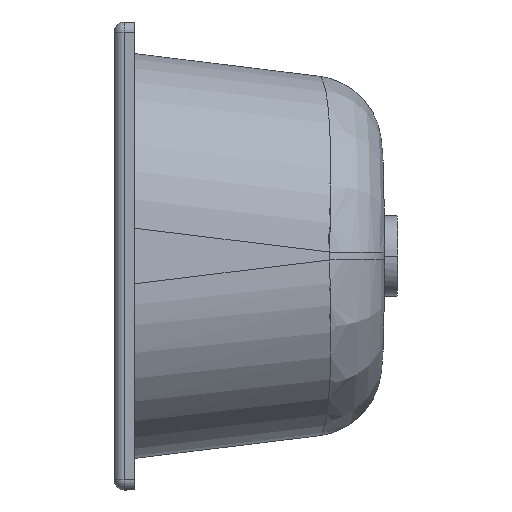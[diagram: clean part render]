
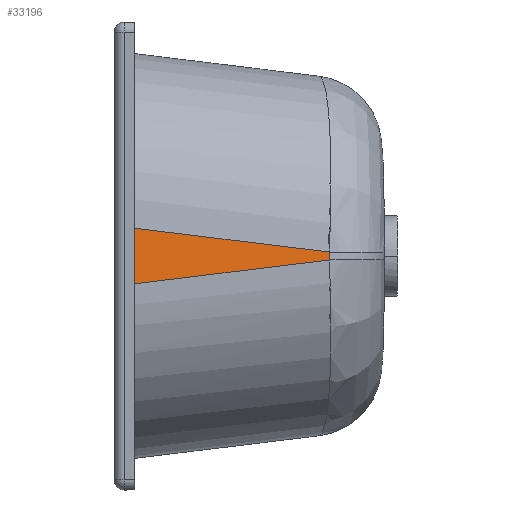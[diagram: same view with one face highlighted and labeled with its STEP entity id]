
A CAD part, left-side view. The second image highlights one B-rep face of the part: STEP entity #33196.
In plain terms, the highlighted planar face has unit normal (-0.974, -0.225, 0).
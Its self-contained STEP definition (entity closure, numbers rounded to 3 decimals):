
#5924 = LINE ( 'NONE', #5974, #30289 ) ;
#5974 = CARTESIAN_POINT ( 'NONE',  ( -667.342, 280.092, -24.544 ) ) ;
#6053 = DIRECTION ( 'NONE',  ( -0.223, 0.967, -0.119 ) ) ;
#7036 = CARTESIAN_POINT ( 'NONE',  ( -632.245, 128.07, 5.878 ) ) ;
#7101 = CARTESIAN_POINT ( 'NONE',  ( -632.245, 128.07, -5.878 ) ) ;
#7181 = CARTESIAN_POINT ( 'NONE',  ( -703.552, 436.935, -43.801 ) ) ;
#7294 = CARTESIAN_POINT ( 'NONE',  ( -703.552, 436.935, 43.801 ) ) ;
#19611 = FACE_OUTER_BOUND ( 'NONE', #32397, .T. ) ;
#20503 = DIRECTION ( 'NONE',  ( -0.974, -0.225, 0. ) ) ;
#20514 = CARTESIAN_POINT ( 'NONE',  ( -703.552, 436.935, -44.327 ) ) ;
#20517 = PLANE ( 'NONE',  #30542 ) ;
#20521 = DIRECTION ( 'NONE',  ( 0.225, -0.974, 0. ) ) ;
#27597 = EDGE_CURVE ( 'NONE', #31654, #31645, #36401, .T. ) ;
#27768 = EDGE_CURVE ( 'NONE', #32083, #32132, #53551, .T. ) ;
#27775 = EDGE_CURVE ( 'NONE', #32132, #31645, #53991, .T. ) ;
#27852 = EDGE_CURVE ( 'NONE', #31654, #32083, #5924, .T. ) ;
#30289 = VECTOR ( 'NONE', #6053, 1000. ) ;
#30302 = VECTOR ( 'NONE', #54029, 1000. ) ;
#30305 = VECTOR ( 'NONE', #36478, 1000. ) ;
#30314 = VECTOR ( 'NONE', #53553, 1000. ) ;
#30542 = AXIS2_PLACEMENT_3D ( 'NONE', #20514, #20503, #20521 ) ;
#31645 = VERTEX_POINT ( 'NONE', #7036 ) ;
#31654 = VERTEX_POINT ( 'NONE', #7101 ) ;
#32083 = VERTEX_POINT ( 'NONE', #7181 ) ;
#32132 = VERTEX_POINT ( 'NONE', #7294 ) ;
#32397 = EDGE_LOOP ( 'NONE', ( #35289, #35304, #35267, #35244 ) ) ;
#33196 = ADVANCED_FACE ( 'NONE', ( #19611 ), #20517, .T. ) ;
#35244 = ORIENTED_EDGE ( 'NONE', *, *, #27597, .T. ) ;
#35267 = ORIENTED_EDGE ( 'NONE', *, *, #27852, .F. ) ;
#35289 = ORIENTED_EDGE ( 'NONE', *, *, #27775, .F. ) ;
#35304 = ORIENTED_EDGE ( 'NONE', *, *, #27768, .F. ) ;
#36401 = LINE ( 'NONE', #36481, #30305 ) ;
#36478 = DIRECTION ( 'NONE',  ( 0., 0., 1. ) ) ;
#36481 = CARTESIAN_POINT ( 'NONE',  ( -632.245, 128.07, 0. ) ) ;
#53551 = LINE ( 'NONE', #53552, #30314 ) ;
#53552 = CARTESIAN_POINT ( 'NONE',  ( -703.552, 436.935, 0. ) ) ;
#53553 = DIRECTION ( 'NONE',  ( 0., 0., 1. ) ) ;
#53991 = LINE ( 'NONE', #54040, #30302 ) ;
#54029 = DIRECTION ( 'NONE',  ( 0.223, -0.967, -0.119 ) ) ;
#54040 = CARTESIAN_POINT ( 'NONE',  ( -667.342, 280.092, 24.544 ) ) ;
